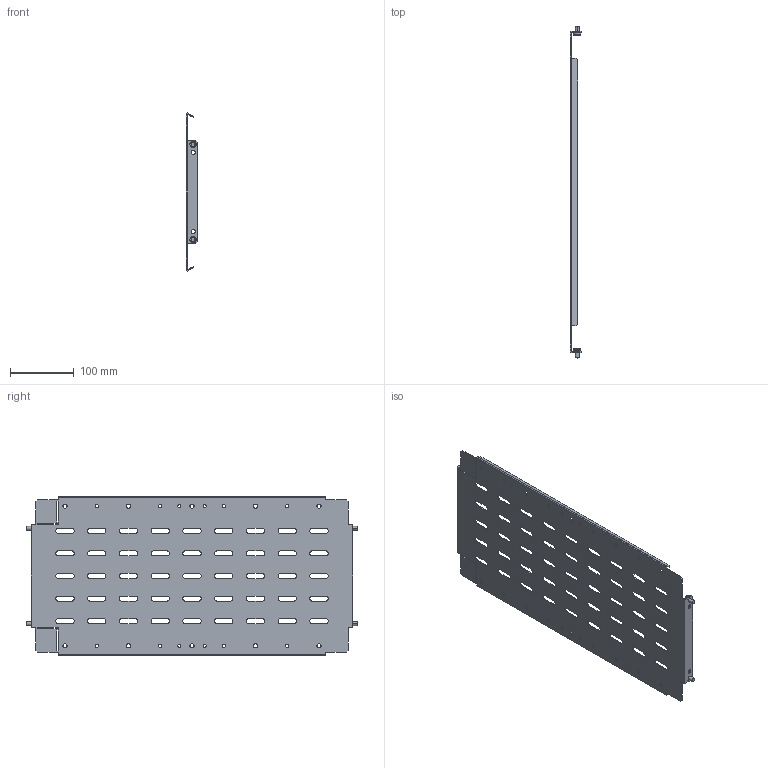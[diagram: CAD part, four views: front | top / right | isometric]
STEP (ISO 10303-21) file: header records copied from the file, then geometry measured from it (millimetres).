
FILE_DESCRIPTION (( 'STEP AP214' ), '1' );
FILE_NAME ('FO-00-SWV-025-060 Ïåðåãîðîäêà ñåêöèîíèðîâàíèÿ âåðòèêàëüíàÿ 250x600 ìì.STEP', '2025-08-11T08:41:33', ( '' ), ( '' ), 'SwSTEP 2.0', 'SolidWorks 2023', '' );
FILE_SCHEMA (( 'AUTOMOTIVE_DESIGN' ));
Length unit declared in the file: millimetre
Products named in the file (1): FO-00-SWV-025-060 Перегородка секционирования вертикальная 250x600 мм
Bounding box: 17.5 x 522.5 x 248.93 mm (x, y, z)
Volume: 193147.1 mm3; surface area: 264339.8 mm2
Topology: 1 solids, 1 shells, 392 faces, 1098 edges, 724 vertices
Faces by surface type: plane 202, cylinder 166, torus 16, cone 8
Entity records: 13005 total; most frequent: DIRECTION 2256, CARTESIAN_POINT 2215, ORIENTED_EDGE 2196, EDGE_CURVE 1098, AXIS2_PLACEMENT_3D 765, LINE 726, VECTOR 726, VERTEX_POINT 724
